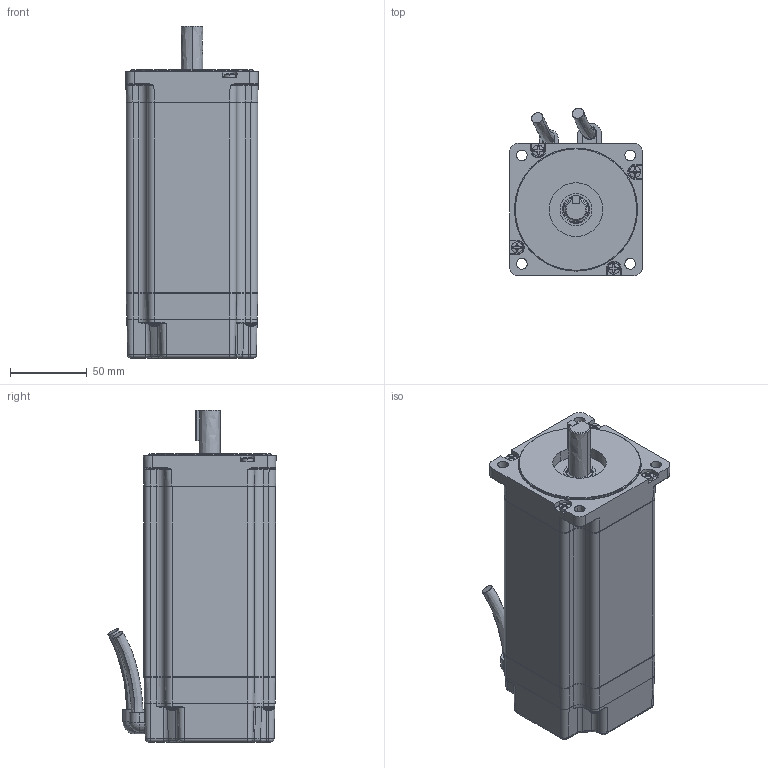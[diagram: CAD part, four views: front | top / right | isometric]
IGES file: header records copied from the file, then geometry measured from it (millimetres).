
Start section:  PTC IGES file: vlm33a.igs
Global section: file name: vlm33a.igs; native system: Pro/ENGINEER by Parametric Technology Corporation; preprocessor: 2006510; author: Ray.Dobbins; organization: Unknown; date: 20110727.083713; units: inch
Bounding box: 86.56 x 109.73 x 216.65 mm (x, y, z)
Surface area: 271946.1 mm2 (no closed solid volume)
Topology: 0 solids, 0 shells, 2061 faces, 11302 edges, 11294 vertices
Faces by surface type: revolution 1213, bspline 848
